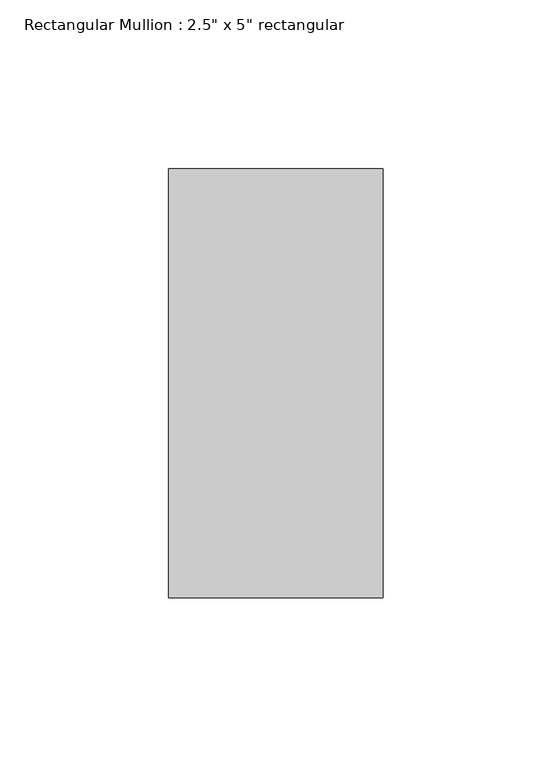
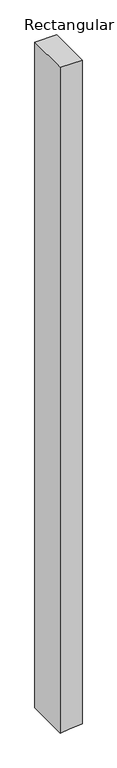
"""IFC4 building model written with IfcOpenShell, lengths in millimetres: member geometry."""

from ifc_helpers import new_model, si_unit, frame, origin, place, context, project, spatial, polyline, outline, extrude, source, transform, mapped, element, save


def member_dbe99c52(model_context):
    return source(origin(), model_context, "Body", "SweptSolid", [
        extrude(outline(polyline([(0.0, 31.75), (0.0, -31.75), (-2042.2724047, -31.75), (-2039.5298379, -6.9912306), (-2035.2384125, 31.75), (0.0, 31.75)])), frame((0.0, -63.5, 0.0), z_axis=(0.0, 1.0, 0.0), x_axis=(0.0, 0.0, 1.0)), (0.0, 0.0, 1.0), 127.0),
    ])


if __name__ == "__main__":
    model = new_model("IFC4")
    model_context = context("Model", 3, world=origin())
    ifc_project = project(units=[si_unit("LENGTHUNIT", "METRE", prefix="MILLI")], contexts=[model_context])
    site = spatial("IfcSite", under=ifc_project)
    building = spatial("IfcBuilding", under=site)
    placement = place(None, origin())
    member_shape = member_dbe99c52(model_context)
    element("IfcMember", 1, ObjectType="Rectangular Mullion : 2.5\" x 5\" rectangular", at=placement, inside=building, context=model_context, shape_type="MappedRepresentation", body=[
        mapped(member_shape, transform((0.0, 0.0, 0.0), x_axis=(1.0, 0.0, 0.0), y_axis=(0.0, 1.0, 0.0), z_axis=(0.0, 0.0, 1.0))),
    ])
    save(model, "model.ifc")
